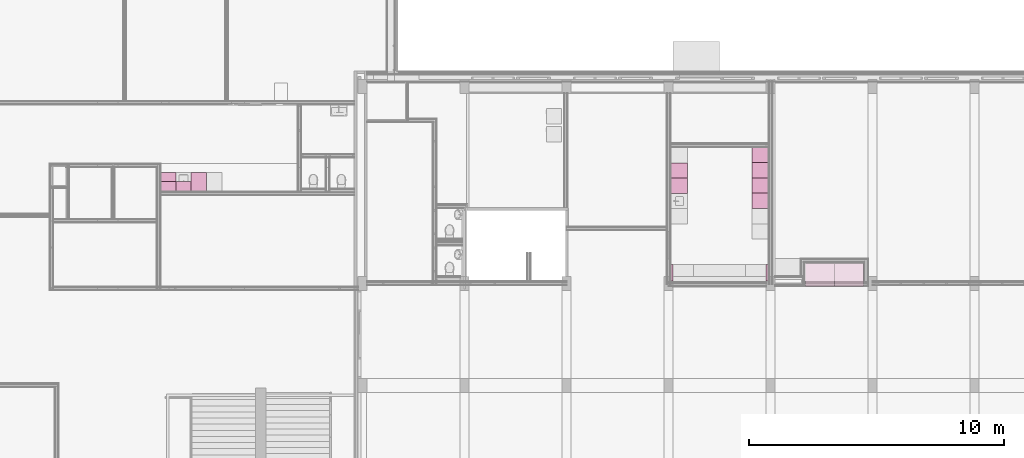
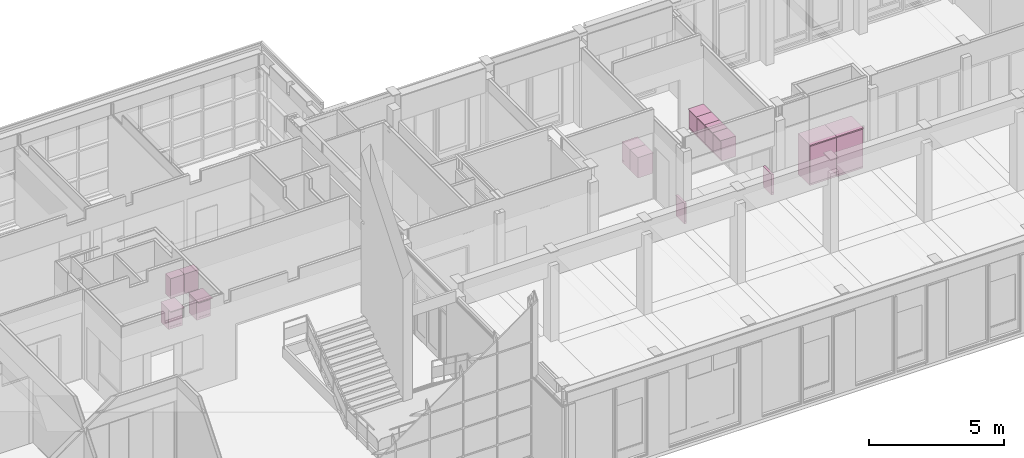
# One storey, part 98 of 109: 14 furnishings.
"""IFC2X3 building model written with IfcOpenShell, lengths in millimetres."""

from ifc_helpers import new_model, entity, si_unit, converted_unit, derived_unit, money_unit, direction, frame, origin_with_axes, place, context, subcontext, project, spatial, faceted_brep, source, transform, mapped, type_object, type_shapes, element, save


model = new_model("IFC2X3")

# Units and contexts
model_context = context("Model", 3, precision=0.01, world=origin_with_axes(), true_north=direction((0.0, 1.0)))
body_context = subcontext(model_context, "Body", "Model", "MODEL_VIEW")
ifc_project = project(units=[si_unit("LENGTHUNIT", "METRE", prefix="MILLI"), si_unit("AREAUNIT", "SQUARE_METRE"), si_unit("VOLUMEUNIT", "CUBIC_METRE"), converted_unit("PLANEANGLEUNIT", "DEGREE", entity("IfcPlaneAngleMeasure", 0.0174532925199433), si_unit("PLANEANGLEUNIT", "RADIAN"), dimensions=[0, 0, 0, 0, 0, 0, 0]), money_unit("EUR"), converted_unit("TIMEUNIT", "Year", entity("IfcTimeMeasure", 31557600.0), si_unit("TIMEUNIT", "SECOND"), dimensions=[0, 0, 1, 0, 0, 0, 0]), si_unit("MASSUNIT", "GRAM", prefix="KILO"), si_unit("THERMODYNAMICTEMPERATUREUNIT", "DEGREE_CELSIUS"), si_unit("LUMINOUSINTENSITYUNIT", "LUMEN"), si_unit("ENERGYUNIT", "JOULE", prefix="MEGA"), derived_unit("THERMALCONDUCTANCEUNIT", [(si_unit("POWERUNIT", "WATT"), 1), (si_unit("LENGTHUNIT", "METRE"), -1), (si_unit("THERMODYNAMICTEMPERATUREUNIT", "KELVIN"), -1)]), derived_unit("SPECIFICHEATCAPACITYUNIT", [(si_unit("ENERGYUNIT", "JOULE"), 1), (si_unit("MASSUNIT", "GRAM", prefix="KILO"), -1), (si_unit("THERMODYNAMICTEMPERATUREUNIT", "KELVIN"), -1)]), derived_unit("MASSDENSITYUNIT", [(si_unit("MASSUNIT", "GRAM", prefix="KILO"), 1), (si_unit("VOLUMEUNIT", "CUBIC_METRE"), -1)])], contexts=[model_context])

# Site, building, storey
site_placement = place(None, origin_with_axes())
site = spatial("IfcSite", under=ifc_project, at=site_placement, Name="<site naam>", CompositionType="ELEMENT")
building_placement = place(site_placement, origin_with_axes())
building = spatial("IfcBuilding", under=site, at=building_placement, Name="<Naam gebouw>", CompositionType="ELEMENT")
storey_placement = place(building_placement, origin_with_axes())
storey = spatial("IfcBuildingStorey", under=building, at=storey_placement, Name="00 Begane grond", CompositionType="ELEMENT", Elevation=0.0)

# Furnishings
furnishing_element_type_1 = type_object("IfcFurnishingElementType", Name="Onderkast recht 27")
shared_shape_1 = source(origin_with_axes(), body_context, "Body", "Brep", [
    faceted_brep([(0.0, -900.0, 1800.0), (1140.0, -900.0, 1800.0), (1140.0, -900.0, 1850.0), (0.0, -900.0, 1850.0), (0.0, 0.0, 1800.0), (1140.0, 0.0, 1800.0), (1140.0, 0.0, 1850.0), (0.0, 0.0, 1850.0)], [[[0, 1, 2, 3]], [[0, 4, 5, 1]], [[1, 5, 6, 2]], [[3, 2, 6, 7]], [[4, 0, 3, 7]], [[5, 4, 7, 6]]]),
    faceted_brep([(1.0, -862.0, 91.0), (1139.0, -862.0, 91.0), (1139.0, -880.0, 91.0), (1.0, -880.0, 91.0), (1.0, -861.9999999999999, 1799.0), (1139.0, -861.9999999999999, 1799.0), (1139.0, -879.9999999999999, 1799.0), (1.0, -879.9999999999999, 1799.0)], [[[0, 1, 2, 3]], [[0, 4, 5, 1]], [[1, 5, 6, 2]], [[3, 2, 6, 7]], [[4, 0, 3, 7]], [[5, 4, 7, 6]]]),
    faceted_brep([(18.0, -862.0, 90.0), (1122.0, -862.0, 90.0), (1122.0, -862.0, 108.0), (18.0, -862.0, 108.0), (18.0, 0.0, 90.0), (1122.0, 0.0, 90.0), (1122.0, 0.0, 108.0), (18.0, 0.0, 108.0)], [[[0, 1, 2, 3]], [[0, 4, 5, 1]], [[1, 5, 6, 2]], [[3, 2, 6, 7]], [[4, 0, 3, 7]], [[5, 4, 7, 6]]]),
    faceted_brep([(18.0, -862.0, 1782.0), (18.0, -802.0, 1782.0), (1122.0, -802.0, 1782.0), (1122.0, -862.0, 1782.0), (18.0, -862.0, 1800.0), (18.0, -802.0, 1800.0), (1122.0, -802.0, 1800.0), (1122.0, -862.0, 1800.0)], [[[0, 1, 2, 3]], [[0, 4, 5, 1]], [[1, 5, 6, 2]], [[3, 2, 6, 7]], [[4, 0, 3, 7]], [[5, 4, 7, 6]]]),
    faceted_brep([(1122.0, 0.0, 1782.0), (1122.0, -60.0, 1782.0), (18.0, -60.0, 1782.0), (18.0, 0.0, 1782.0), (1122.0, 0.0, 1800.0), (1122.0, -60.0, 1800.0), (18.0, -60.0, 1800.0), (18.0, 0.0, 1800.0)], [[[0, 1, 2, 3]], [[0, 4, 5, 1]], [[1, 5, 6, 2]], [[3, 2, 6, 7]], [[4, 0, 3, 7]], [[5, 4, 7, 6]]]),
    faceted_brep([(0.0, 0.0, 90.0), (0.0, -862.0, 90.0), (0.0, -862.0, 1800.0), (0.0, 0.0, 1800.0), (18.0, 0.0, 90.0), (18.0, -862.0, 90.0), (18.0, -862.0, 1800.0), (18.0, 0.0, 1800.0)], [[[0, 1, 2, 3]], [[0, 4, 5, 1]], [[1, 5, 6, 2]], [[3, 2, 6, 7]], [[4, 0, 3, 7]], [[5, 4, 7, 6]]]),
    faceted_brep([(1140.0, -862.0, 90.0), (1140.0, 0.0, 90.0), (1140.0, 0.0, 1800.0), (1140.0, -862.0, 1800.0), (1122.0, -862.0, 90.0), (1122.0, 0.0, 90.0), (1122.0, 0.0, 1800.0), (1122.0, -862.0, 1800.0)], [[[0, 1, 2, 3]], [[0, 4, 5, 1]], [[1, 5, 6, 2]], [[3, 2, 6, 7]], [[4, 0, 3, 7]], [[5, 4, 7, 6]]]),
    faceted_brep([(1122.0, -9.0, 108.0), (18.00000000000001, -9.0, 108.0), (18.00000000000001, -9.0, 1782.0), (1122.0, -9.0, 1782.0), (1122.0, -18.0, 108.0), (18.00000000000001, -18.0, 108.0), (18.00000000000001, -18.0, 1782.0), (1122.0, -18.0, 1782.0)], [[[0, 1, 2, 3]], [[0, 4, 5, 1]], [[1, 5, 6, 2]], [[3, 2, 6, 7]], [[4, 0, 3, 7]], [[5, 4, 7, 6]]]),
    faceted_brep([(0.0, -862.0, 0.0), (1140.0, -862.0, 0.0), (1140.0, -862.0, 90.0), (0.0, -862.0, 90.0), (0.0, 0.0, 0.0), (1140.0, 0.0, 0.0), (1140.0, 0.0, 90.0), (0.0, 0.0, 90.0)], [[[0, 1, 2, 3]], [[0, 4, 5, 1]], [[1, 5, 6, 2]], [[3, 2, 6, 7]], [[4, 0, 3, 7]], [[5, 4, 7, 6]]]),
])
for number, where, z_axis, x_axis, name in (
    (1, (29357.98420982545, 12786.425063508, 0.0), (0.0, 0.0, 1.0), (1.0, 0.0, 0.0), "73_heg_Lege"),
    (2, (30497.98420982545, 12786.425063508, 0.0), (0.0, 0.0, 1.0), (1.0, 0.0, 0.0), "73_heg_Lege"),
):
    element("IfcFurnishingElement", number, at=place(storey_placement, frame(where, z_axis=z_axis, x_axis=x_axis)), inside=storey, type_object=furnishing_element_type_1, Name=name, context=body_context, shape_type="MappedRepresentation", body=[
        mapped(shared_shape_1, transform((0.0, 0.0, 0.0))),
    ])
shared_shape_2 = source(origin_with_axes(), body_context, "Body", "Brep", [
    faceted_brep([(0.0, -650.0, 900.0), (0.0, -650.0, 930.0), (-600.0, -650.0, 930.0), (-600.0, -650.0, 900.0), (0.0, 0.0, 900.0), (0.0, 0.0, 930.0), (-600.0, 0.0, 930.0), (-600.0, 0.0, 900.0)], [[[0, 1, 2, 3]], [[4, 5, 1, 0]], [[1, 5, 6, 2]], [[3, 2, 6, 7]], [[0, 3, 7, 4]], [[7, 6, 5, 4]]]),
    faceted_brep([(-1.0, -612.0, 101.0), (-1.0, -630.0, 101.0), (-599.0, -630.0, 101.0), (-599.0, -612.0, 101.0), (-1.0, -612.0, 899.0), (-1.0, -629.9999999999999, 899.0), (-599.0, -629.9999999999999, 899.0), (-599.0, -612.0, 899.0)], [[[0, 1, 2, 3]], [[4, 5, 1, 0]], [[1, 5, 6, 2]], [[3, 2, 6, 7]], [[0, 3, 7, 4]], [[7, 6, 5, 4]]]),
    faceted_brep([(-18.0, -612.0, 100.0), (-18.0, -612.0, 118.0), (-582.0, -612.0, 118.0), (-582.0, -612.0, 100.0), (-18.0, 0.0, 100.0), (-18.0, 0.0, 118.0), (-582.0, 0.0, 118.0), (-582.0, 0.0, 100.0)], [[[0, 1, 2, 3]], [[4, 5, 1, 0]], [[1, 5, 6, 2]], [[3, 2, 6, 7]], [[0, 3, 7, 4]], [[7, 6, 5, 4]]]),
    faceted_brep([(-18.0, -612.0, 882.0), (-582.0, -612.0, 882.0), (-582.0, -552.0, 882.0), (-18.0, -552.0, 882.0), (-18.0, -612.0, 900.0), (-582.0, -612.0, 900.0), (-582.0, -552.0, 900.0), (-18.0, -552.0, 900.0)], [[[0, 1, 2, 3]], [[4, 5, 1, 0]], [[1, 5, 6, 2]], [[3, 2, 6, 7]], [[0, 3, 7, 4]], [[7, 6, 5, 4]]]),
    faceted_brep([(-582.0, 0.0, 882.0), (-18.0, 0.0, 882.0), (-18.0, -60.0, 882.0), (-582.0, -60.0, 882.0), (-582.0, 0.0, 900.0), (-18.0, 0.0, 900.0), (-18.0, -60.0, 900.0), (-582.0, -60.0, 900.0)], [[[0, 1, 2, 3]], [[4, 5, 1, 0]], [[1, 5, 6, 2]], [[3, 2, 6, 7]], [[0, 3, 7, 4]], [[7, 6, 5, 4]]]),
    faceted_brep([(0.0, 0.0, 100.0), (0.0, 0.0, 900.0), (0.0, -612.0, 900.0), (0.0, -612.0, 100.0), (-18.0, 0.0, 100.0), (-18.0, 0.0, 900.0), (-18.0, -612.0, 900.0), (-18.0, -612.0, 100.0)], [[[0, 1, 2, 3]], [[4, 5, 1, 0]], [[1, 5, 6, 2]], [[3, 2, 6, 7]], [[0, 3, 7, 4]], [[7, 6, 5, 4]]]),
    faceted_brep([(-600.0, -612.0, 100.0), (-600.0, -612.0, 900.0), (-600.0, 0.0, 900.0), (-600.0, 0.0, 100.0), (-582.0, -612.0, 100.0), (-582.0, -612.0, 900.0), (-582.0, 0.0, 900.0), (-582.0, 0.0, 100.0)], [[[0, 1, 2, 3]], [[4, 5, 1, 0]], [[1, 5, 6, 2]], [[3, 2, 6, 7]], [[0, 3, 7, 4]], [[7, 6, 5, 4]]]),
    faceted_brep([(-582.0, -9.0, 118.0), (-582.0, -9.0, 882.0), (-18.00000000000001, -9.0, 882.0), (-18.00000000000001, -9.0, 118.0), (-582.0, -18.0, 118.0), (-582.0, -18.0, 882.0), (-18.00000000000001, -18.0, 882.0), (-18.00000000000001, -18.0, 118.0)], [[[0, 1, 2, 3]], [[4, 5, 1, 0]], [[1, 5, 6, 2]], [[3, 2, 6, 7]], [[0, 3, 7, 4]], [[7, 6, 5, 4]]]),
    faceted_brep([(0.0, -612.0, 0.0), (0.0, -612.0, 100.0), (-600.0, -612.0, 100.0), (-600.0, -612.0, 0.0), (0.0, 0.0, 0.0), (0.0, 0.0, 100.0), (-600.0, 0.0, 100.0), (-600.0, 0.0, 0.0)], [[[0, 1, 2, 3]], [[4, 5, 1, 0]], [[1, 5, 6, 2]], [[3, 2, 6, 7]], [[0, 3, 7, 4]], [[7, 6, 5, 4]]]),
])
for number, where, z_axis, x_axis, name in (
    (3, (24082.81277827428, 16729.00000000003, 0.0), (0.0, 0.0, 1.0), (0.0, 1.0, 0.0), "73_heg_Lege"),
    (4, (24082.81277827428, 16129.00000000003, 0.0), (0.0, 0.0, 1.0), (0.0, 1.0, 0.0), "73_heg_Lege"),
    (5, (27925.00000000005, 16737.83062488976, 0.0), (0.0, 0.0, 1.0), (0.0, -1.0, 0.0), "73_heg_Lege"),
    (6, (27925.00000000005, 15537.83062488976, 0.0), (0.0, 0.0, 1.0), (0.0, -1.0, 0.0), "73_heg_Lege"),
    (7, (27925.00000000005, 16137.83062488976, 0.0), (0.0, 0.0, 1.0), (0.0, -1.0, 0.0), "73_heg_Lege"),
    (8, (27925.00000000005, 14937.83062488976, 0.0), (0.0, 0.0, 1.0), (0.0, -1.0, 0.0), "73_heg_Lege"),
):
    element("IfcFurnishingElement", number, at=place(storey_placement, frame(where, z_axis=z_axis, x_axis=x_axis)), inside=storey, type_object=furnishing_element_type_1, Name=name, context=body_context, shape_type="MappedRepresentation", body=[
        mapped(shared_shape_2, transform((0.0, 0.0, 0.0))),
    ])
shared_shape_3 = source(origin_with_axes(), body_context, "Body", "Brep", [
    faceted_brep([(0.0, -750.0, 870.0), (0.0, -750.0, 900.0), (-600.0, -750.0, 900.0), (-600.0, -750.0, 870.0), (0.0, 0.0, 870.0), (0.0, 0.0, 900.0), (-600.0, 0.0, 900.0), (-600.0, 0.0, 870.0)], [[[0, 1, 2, 3]], [[4, 5, 1, 0]], [[1, 5, 6, 2]], [[3, 2, 6, 7]], [[0, 3, 7, 4]], [[7, 6, 5, 4]]]),
    faceted_brep([(-18.0, -712.0, 460.9999999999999), (-18.0, -712.0, 479.0), (-582.0, -712.0, 479.0), (-582.0, -712.0, 460.9999999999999), (-18.0, -168.0, 460.9999999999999), (-18.0, -168.0, 479.0), (-582.0, -168.0, 479.0), (-582.0, -168.0, 460.9999999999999)], [[[0, 1, 2, 3]], [[4, 5, 1, 0]], [[1, 5, 6, 2]], [[3, 2, 6, 7]], [[0, 3, 7, 4]], [[7, 6, 5, 4]]]),
    faceted_brep([(-1.0, -712.0, 91.0), (-1.0, -730.0, 91.0), (-599.0, -730.0, 91.0), (-599.0, -712.0, 91.0), (-1.0, -712.0, 469.0), (-1.0, -730.0, 469.0), (-599.0, -730.0, 469.0), (-599.0, -712.0, 469.0)], [[[0, 1, 2, 3]], [[4, 5, 1, 0]], [[1, 5, 6, 2]], [[3, 2, 6, 7]], [[0, 3, 7, 4]], [[7, 6, 5, 4]]]),
    faceted_brep([(-1.0, -712.0, 471.0), (-1.0, -730.0, 471.0), (-599.0, -730.0, 471.0), (-599.0, -712.0, 471.0), (-1.0, -712.0, 869.0), (-1.0, -730.0, 869.0), (-599.0, -730.0, 869.0), (-599.0, -712.0, 869.0)], [[[0, 1, 2, 3]], [[4, 5, 1, 0]], [[1, 5, 6, 2]], [[3, 2, 6, 7]], [[0, 3, 7, 4]], [[7, 6, 5, 4]]]),
    faceted_brep([(-18.0, -712.0, 90.0), (-18.0, -712.0, 108.0), (-582.0, -712.0, 108.0), (-582.0, -712.0, 90.0), (-18.0, -150.0, 90.0), (-18.0, -150.0, 108.0), (-582.0, -150.0, 108.0), (-582.0, -150.0, 90.0)], [[[0, 1, 2, 3]], [[4, 5, 1, 0]], [[1, 5, 6, 2]], [[3, 2, 6, 7]], [[0, 3, 7, 4]], [[7, 6, 5, 4]]]),
    faceted_brep([(-18.0, -712.0, 852.0), (-582.0, -712.0, 852.0), (-582.0, -652.0, 852.0), (-18.0, -652.0, 852.0), (-18.0, -712.0, 870.0), (-582.0, -712.0, 870.0), (-582.0, -652.0, 870.0), (-18.0, -652.0, 870.0)], [[[0, 1, 2, 3]], [[4, 5, 1, 0]], [[1, 5, 6, 2]], [[3, 2, 6, 7]], [[0, 3, 7, 4]], [[7, 6, 5, 4]]]),
    faceted_brep([(-582.0, -150.0, 852.0), (-18.0, -150.0, 852.0), (-18.0, -210.0, 852.0), (-582.0, -210.0, 852.0), (-582.0, -150.0, 870.0), (-18.0, -150.0, 870.0), (-18.0, -210.0, 870.0), (-582.0, -210.0, 870.0)], [[[0, 1, 2, 3]], [[4, 5, 1, 0]], [[1, 5, 6, 2]], [[3, 2, 6, 7]], [[0, 3, 7, 4]], [[7, 6, 5, 4]]]),
    faceted_brep([(0.0, -150.0, 90.0), (0.0, -150.0, 870.0), (0.0, -712.0, 870.0), (0.0, -712.0, 90.0), (-18.0, -150.0, 90.0), (-18.0, -150.0, 870.0), (-18.0, -712.0, 870.0), (-18.0, -712.0, 90.0)], [[[0, 1, 2, 3]], [[4, 5, 1, 0]], [[1, 5, 6, 2]], [[3, 2, 6, 7]], [[0, 3, 7, 4]], [[7, 6, 5, 4]]]),
    faceted_brep([(-600.0, -712.0, 90.0), (-600.0, -712.0, 870.0), (-600.0, -150.0, 870.0), (-600.0, -150.0, 90.0), (-582.0, -712.0, 90.0), (-582.0, -712.0, 870.0), (-582.0, -150.0, 870.0), (-582.0, -150.0, 90.0)], [[[0, 1, 2, 3]], [[4, 5, 1, 0]], [[1, 5, 6, 2]], [[3, 2, 6, 7]], [[0, 3, 7, 4]], [[7, 6, 5, 4]]]),
    faceted_brep([(-582.0, -159.0, 108.0), (-582.0, -159.0, 852.0), (-18.00000000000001, -159.0, 852.0), (-18.00000000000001, -159.0, 108.0), (-582.0, -168.0, 108.0), (-582.0, -168.0, 852.0), (-18.00000000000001, -168.0, 852.0), (-18.00000000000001, -168.0, 108.0)], [[[0, 1, 2, 3]], [[4, 5, 1, 0]], [[1, 5, 6, 2]], [[3, 2, 6, 7]], [[0, 3, 7, 4]], [[7, 6, 5, 4]]]),
    faceted_brep([(0.0, -712.0, 0.0), (0.0, -712.0, 90.0), (-600.0, -712.0, 90.0), (-600.0, -712.0, 0.0), (0.0, -150.0, 0.0), (0.0, -150.0, 90.0), (-600.0, -150.0, 90.0), (-600.0, -150.0, 0.0)], [[[0, 1, 2, 3]], [[4, 5, 1, 0]], [[1, 5, 6, 2]], [[3, 2, 6, 7]], [[0, 3, 7, 4]], [[7, 6, 5, 4]]]),
])
for number, where, z_axis, x_axis, name in (
    (9, (4075.000000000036, 15599.99999999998, 0.0), (0.0, 0.0, 1.0), (-1.0, 0.0, 0.0), "73_heg_Lege"),
    (10, (5275.000000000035, 15599.99999999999, 0.0), (0.0, 0.0, 1.0), (-1.0, 0.0, 0.0), "73_heg_Lege"),
):
    element("IfcFurnishingElement", number, at=place(storey_placement, frame(where, z_axis=z_axis, x_axis=x_axis)), inside=storey, type_object=furnishing_element_type_1, Name=name, context=body_context, shape_type="MappedRepresentation", body=[
        mapped(shared_shape_3, transform((0.0, 0.0, 0.0))),
    ])
furnishing_element_type_2 = type_object("IfcFurnishingElementType", Name="Bovenkast recht 27")
shared_shape_4 = source(origin_with_axes(), body_context, "Body", "Brep", [
    faceted_brep([(-18.0, -380.0, 1941.0), (-18.0, -380.0, 1959.0), (-582.0, -380.0, 1959.0), (-582.0, -380.0, 1941.0), (-18.0, -18.0, 1941.0), (-18.0, -18.0, 1959.0), (-582.0, -18.0, 1959.0), (-582.0, -18.0, 1941.0)], [[[0, 1, 2, 3]], [[4, 5, 1, 0]], [[1, 5, 6, 2]], [[3, 2, 6, 7]], [[0, 3, 7, 4]], [[7, 6, 5, 4]]]),
    faceted_brep([(-1.0, -380.0, 1501.0), (-1.0, -398.0, 1501.0), (-599.0, -398.0, 1501.0), (-599.0, -380.0, 1501.0), (-1.0, -379.9999999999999, 2399.0), (-1.0, -397.9999999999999, 2399.0), (-599.0, -397.9999999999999, 2399.0), (-599.0, -379.9999999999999, 2399.0)], [[[0, 1, 2, 3]], [[4, 5, 1, 0]], [[1, 5, 6, 2]], [[3, 2, 6, 7]], [[0, 3, 7, 4]], [[7, 6, 5, 4]]]),
    faceted_brep([(-18.0, -380.0, 1500.0), (-18.0, -380.0, 1518.0), (-582.0, -380.0, 1518.0), (-582.0, -380.0, 1500.0), (-18.0, 0.0, 1500.0), (-18.0, 0.0, 1518.0), (-582.0, 0.0, 1518.0), (-582.0, 0.0, 1500.0)], [[[0, 1, 2, 3]], [[4, 5, 1, 0]], [[1, 5, 6, 2]], [[3, 2, 6, 7]], [[0, 3, 7, 4]], [[7, 6, 5, 4]]]),
    faceted_brep([(-18.0, -380.0, 2382.0), (-18.0, -380.0, 2400.0), (-582.0, -380.0, 2400.0), (-582.0, -380.0, 2382.0), (-18.0, 0.0, 2382.0), (-18.0, 0.0, 2400.0), (-582.0, 0.0, 2400.0), (-582.0, 0.0, 2382.0)], [[[0, 1, 2, 3]], [[4, 5, 1, 0]], [[1, 5, 6, 2]], [[3, 2, 6, 7]], [[0, 3, 7, 4]], [[7, 6, 5, 4]]]),
    faceted_brep([(0.0, 0.0, 1500.0), (0.0, 0.0, 2400.0), (0.0, -380.0, 2400.0), (0.0, -380.0, 1500.0), (-18.0, 0.0, 1500.0), (-18.0, 0.0, 2400.0), (-18.0, -380.0, 2400.0), (-18.0, -380.0, 1500.0)], [[[0, 1, 2, 3]], [[4, 5, 1, 0]], [[1, 5, 6, 2]], [[3, 2, 6, 7]], [[0, 3, 7, 4]], [[7, 6, 5, 4]]]),
    faceted_brep([(-600.0, -380.0, 1500.0), (-600.0, -380.0, 2400.0), (-600.0, 0.0, 2400.0), (-600.0, 0.0, 1500.0), (-582.0, -380.0, 1500.0), (-582.0, -380.0, 2400.0), (-582.0, 0.0, 2400.0), (-582.0, 0.0, 1500.0)], [[[0, 1, 2, 3]], [[4, 5, 1, 0]], [[1, 5, 6, 2]], [[3, 2, 6, 7]], [[0, 3, 7, 4]], [[7, 6, 5, 4]]]),
    faceted_brep([(-582.0, -9.0, 1518.0), (-582.0, -9.0, 2382.0), (-18.00000000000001, -9.0, 2382.0), (-18.00000000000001, -9.0, 1518.0), (-582.0, -18.0, 1518.0), (-582.0, -18.0, 2382.0), (-18.00000000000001, -18.0, 2382.0), (-18.00000000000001, -18.0, 1518.0)], [[[0, 1, 2, 3]], [[4, 5, 1, 0]], [[1, 5, 6, 2]], [[3, 2, 6, 7]], [[0, 3, 7, 4]], [[7, 6, 5, 4]]]),
])
type_shapes(furnishing_element_type_2, [shared_shape_4])
for number, where, z_axis, x_axis, name in (
    (11, (4075.000000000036, 15599.99999999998, 0.0), (0.0, 0.0, 1.0), (-1.0, 0.0, 0.0), "73_heg_Lege"),
    (12, (4675.000000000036, 15599.99999999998, 0.0), (0.0, 0.0, 1.0), (-1.0, 0.0, 0.0), "73_heg_Lege"),
):
    element("IfcFurnishingElement", number, at=place(storey_placement, frame(where, z_axis=z_axis, x_axis=x_axis)), inside=storey, type_object=furnishing_element_type_2, Name=name, context=body_context, shape_type="MappedRepresentation", body=[
        mapped(shared_shape_4, transform((0.0, 0.0, 0.0))),
    ])
shared_shape_5 = source(origin_with_axes(), body_context, "Body", "Brep", [
    faceted_brep([(0.0, -650.0, 894.0), (0.0, -650.0, 930.0), (-100.0, -650.0, 930.0), (-100.0, -650.0, 894.0), (0.0, 0.0, 894.0), (0.0, 0.0, 930.0), (-100.0, 0.0, 930.0), (-100.0, 0.0, 894.0)], [[[0, 1, 2, 3]], [[4, 5, 1, 0]], [[1, 5, 6, 2]], [[3, 2, 6, 7]], [[0, 3, 7, 4]], [[7, 6, 5, 4]]]),
    faceted_brep([(-0.9999999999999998, -612.0, 101.0), (-0.9999999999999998, -630.0, 101.0), (-99.0, -630.0, 101.0), (-99.0, -612.0, 101.0), (-0.9999999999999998, -612.0, 893.0), (-0.9999999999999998, -629.9999999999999, 893.0), (-99.0, -629.9999999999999, 893.0), (-99.0, -612.0, 893.0)], [[[0, 1, 2, 3]], [[4, 5, 1, 0]], [[1, 5, 6, 2]], [[3, 2, 6, 7]], [[0, 3, 7, 4]], [[7, 6, 5, 4]]]),
    faceted_brep([(-18.0, -612.0, 100.0), (-18.0, -612.0, 118.0), (-82.0, -612.0, 118.0), (-82.0, -612.0, 100.0), (-18.0, 0.0, 100.0), (-18.0, 0.0, 118.0), (-82.0, 0.0, 118.0), (-82.0, 0.0, 100.0)], [[[0, 1, 2, 3]], [[4, 5, 1, 0]], [[1, 5, 6, 2]], [[3, 2, 6, 7]], [[0, 3, 7, 4]], [[7, 6, 5, 4]]]),
    faceted_brep([(-18.0, -612.0, 876.0), (-82.0, -612.0, 876.0), (-82.0, -552.0, 876.0), (-18.0, -552.0, 876.0), (-18.0, -612.0, 894.0), (-82.0, -612.0, 894.0), (-82.0, -552.0, 894.0), (-18.0, -552.0, 894.0)], [[[0, 1, 2, 3]], [[4, 5, 1, 0]], [[1, 5, 6, 2]], [[3, 2, 6, 7]], [[0, 3, 7, 4]], [[7, 6, 5, 4]]]),
    faceted_brep([(-82.0, 0.0, 876.0), (-18.0, 0.0, 876.0), (-18.0, -60.0, 876.0), (-82.0, -60.0, 876.0), (-82.0, 0.0, 894.0), (-18.0, 0.0, 894.0), (-18.0, -60.0, 894.0), (-82.0, -60.0, 894.0)], [[[0, 1, 2, 3]], [[4, 5, 1, 0]], [[1, 5, 6, 2]], [[3, 2, 6, 7]], [[0, 3, 7, 4]], [[7, 6, 5, 4]]]),
    faceted_brep([(0.0, 0.0, 100.0), (0.0, 0.0, 894.0), (0.0, -612.0, 894.0), (0.0, -612.0, 100.0), (-18.0, 0.0, 100.0), (-18.0, 0.0, 894.0), (-18.0, -612.0, 894.0), (-18.0, -612.0, 100.0)], [[[0, 1, 2, 3]], [[4, 5, 1, 0]], [[1, 5, 6, 2]], [[3, 2, 6, 7]], [[0, 3, 7, 4]], [[7, 6, 5, 4]]]),
    faceted_brep([(-100.0, -612.0, 100.0), (-100.0, -612.0, 894.0), (-100.0, 0.0, 894.0), (-100.0, 0.0, 100.0), (-82.0, -612.0, 100.0), (-82.0, -612.0, 894.0), (-82.0, 0.0, 894.0), (-82.0, 0.0, 100.0)], [[[0, 1, 2, 3]], [[4, 5, 1, 0]], [[1, 5, 6, 2]], [[3, 2, 6, 7]], [[0, 3, 7, 4]], [[7, 6, 5, 4]]]),
    faceted_brep([(-82.0, -9.0, 118.0), (-82.0, -9.0, 876.0), (-18.0, -9.0, 876.0), (-18.0, -9.0, 118.0), (-82.0, -18.0, 118.0), (-82.0, -18.0, 876.0), (-18.0, -18.0, 876.0), (-18.0, -18.0, 118.0)], [[[0, 1, 2, 3]], [[4, 5, 1, 0]], [[1, 5, 6, 2]], [[3, 2, 6, 7]], [[0, 3, 7, 4]], [[7, 6, 5, 4]]]),
    faceted_brep([(0.0, -612.0, 0.0), (0.0, -612.0, 100.0), (-100.0, -612.0, 100.0), (-100.0, -612.0, 0.0), (0.0, 0.0, 0.0), (0.0, 0.0, 100.0), (-100.0, 0.0, 100.0), (-100.0, 0.0, 0.0)], [[[0, 1, 2, 3]], [[4, 5, 1, 0]], [[1, 5, 6, 2]], [[3, 2, 6, 7]], [[0, 3, 7, 4]], [[7, 6, 5, 4]]]),
])
type_shapes(furnishing_element_type_1, [shared_shape_1, shared_shape_2, shared_shape_3, shared_shape_5])
for number, where, z_axis, x_axis, name in (
    (13, (24080.00000000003, 12094.67036517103, 0.0), (0.0, 0.0, 1.0), (-1.0, 0.0, 0.0), "73_heg_Lege"),
    (14, (27820.00000000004, 12094.67036517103, 0.0), (0.0, 0.0, 1.0), (-1.0, 0.0, 0.0), "73_heg_Lege"),
):
    element("IfcFurnishingElement", number, at=place(storey_placement, frame(where, z_axis=z_axis, x_axis=x_axis)), inside=storey, type_object=furnishing_element_type_1, Name=name, context=body_context, shape_type="MappedRepresentation", body=[
        mapped(shared_shape_5, transform((0.0, 0.0, 0.0))),
    ])

save(model, "model.ifc")
